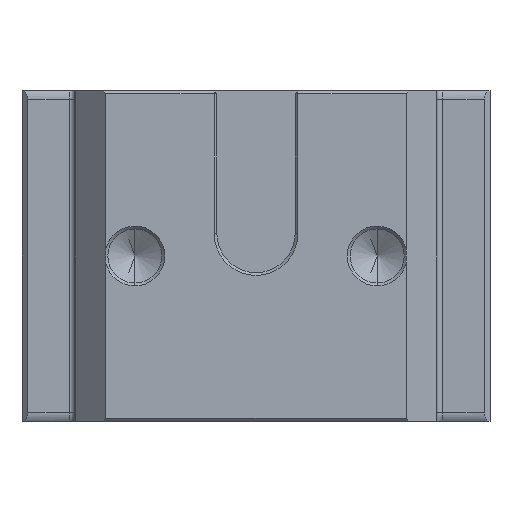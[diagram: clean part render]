
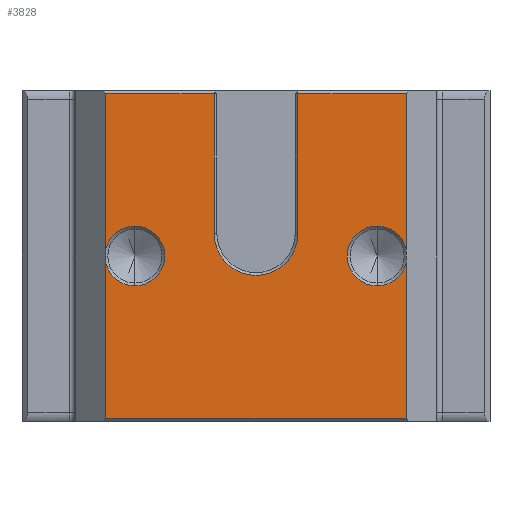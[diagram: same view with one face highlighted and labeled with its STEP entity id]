
A CAD part, front view. The second image highlights one B-rep face of the part: STEP entity #3828.
In plain terms, the highlighted planar face has unit normal (0, -1, 0).
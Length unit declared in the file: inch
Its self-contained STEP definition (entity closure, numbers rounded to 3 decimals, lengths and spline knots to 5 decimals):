
#2 = CARTESIAN_POINT ( 'NONE',  ( 0., 0.195, 0.08055 ) ) ;
#42 = CARTESIAN_POINT ( 'NONE',  ( 0.43307, 0.195, 0. ) ) ;
#49 = LINE ( 'NONE', #2636, #3301 ) ;
#53 = DIRECTION ( 'NONE',  ( 0., -1., 0. ) ) ;
#76 = EDGE_CURVE ( 'NONE', #3128, #4340, #2495, .T. ) ;
#121 = EDGE_CURVE ( 'NONE', #3798, #4583, #49, .T. ) ;
#190 = CARTESIAN_POINT ( 'NONE',  ( 0.43307, 0.195, 0. ) ) ;
#260 = CARTESIAN_POINT ( 'NONE',  ( 0.53665, 0.195, 0.02581 ) ) ;
#264 = DIRECTION ( 'NONE',  ( 0., 0., -1. ) ) ;
#275 = ORIENTED_EDGE ( 'NONE', *, *, #4650, .T. ) ;
#340 = EDGE_LOOP ( 'NONE', ( #3290, #2450, #4746, #2529, #2672, #1800, #275, #4670, #1283, #551, #570, #1722, #672, #1877, #1932, #1802 ) ) ;
#425 = DIRECTION ( 'NONE',  ( 0., 0., -1. ) ) ;
#451 = VERTEX_POINT ( 'NONE', #953 ) ;
#529 = EDGE_CURVE ( 'NONE', #860, #4014, #2243, .T. ) ;
#530 = CARTESIAN_POINT ( 'NONE',  ( -0.53665, 0.195, -0.58055 ) ) ;
#537 = DIRECTION ( 'NONE',  ( 0., -1., 0. ) ) ;
#551 = ORIENTED_EDGE ( 'NONE', *, *, #2058, .T. ) ;
#570 = ORIENTED_EDGE ( 'NONE', *, *, #941, .T. ) ;
#629 = VERTEX_POINT ( 'NONE', #2657 ) ;
#631 = DIRECTION ( 'NONE',  ( 0., -1., 0. ) ) ;
#666 = CARTESIAN_POINT ( 'NONE',  ( 0.53665, 0.195, -0.58055 ) ) ;
#671 = CARTESIAN_POINT ( 'NONE',  ( 0.53665, 0.195, -0.59055 ) ) ;
#672 = ORIENTED_EDGE ( 'NONE', *, *, #910, .F. ) ;
#700 = AXIS2_PLACEMENT_3D ( 'NONE', #671, #1003, #2521 ) ;
#747 = VERTEX_POINT ( 'NONE', #260 ) ;
#779 = CARTESIAN_POINT ( 'NONE',  ( 0.53665, 0.195, 0.58055 ) ) ;
#822 = VERTEX_POINT ( 'NONE', #3176 ) ;
#860 = VERTEX_POINT ( 'NONE', #1352 ) ;
#910 = EDGE_CURVE ( 'NONE', #2359, #822, #3316, .T. ) ;
#925 = VECTOR ( 'NONE', #4348, 39.37008 ) ;
#941 = EDGE_CURVE ( 'NONE', #1316, #1856, #1542, .T. ) ;
#953 = CARTESIAN_POINT ( 'NONE',  ( -0.43307, 0.195, -0.10675 ) ) ;
#1003 = DIRECTION ( 'NONE',  ( 0., 1., 0. ) ) ;
#1025 = EDGE_CURVE ( 'NONE', #3128, #629, #3052, .T. ) ;
#1190 = AXIS2_PLACEMENT_3D ( 'NONE', #1464, #3024, #425 ) ;
#1256 = DIRECTION ( 'NONE',  ( 0., 0., 1. ) ) ;
#1283 = ORIENTED_EDGE ( 'NONE', *, *, #3229, .T. ) ;
#1301 = CARTESIAN_POINT ( 'NONE',  ( -0.43307, 0.195, 0.10675 ) ) ;
#1310 = DIRECTION ( 'NONE',  ( 0., 0., -1. ) ) ;
#1316 = VERTEX_POINT ( 'NONE', #4523 ) ;
#1333 = CARTESIAN_POINT ( 'NONE',  ( 0.53665, 0.195, 0.58055 ) ) ;
#1352 = CARTESIAN_POINT ( 'NONE',  ( 0.43307, 0.195, 0.10675 ) ) ;
#1353 = VECTOR ( 'NONE', #4600, 39.37008 ) ;
#1388 = CARTESIAN_POINT ( 'NONE',  ( 0.53665, 0.195, -0.59055 ) ) ;
#1462 = VERTEX_POINT ( 'NONE', #3217 ) ;
#1464 = CARTESIAN_POINT ( 'NONE',  ( 0.43307, 0.195, 0. ) ) ;
#1542 = LINE ( 'NONE', #4504, #3817 ) ;
#1562 = EDGE_CURVE ( 'NONE', #4014, #3518, #2876, .T. ) ;
#1584 = LINE ( 'NONE', #4208, #3386 ) ;
#1638 = CARTESIAN_POINT ( 'NONE',  ( -0.53665, 0.195, -0.59055 ) ) ;
#1646 = EDGE_CURVE ( 'NONE', #629, #451, #4413, .T. ) ;
#1655 = CARTESIAN_POINT ( 'NONE',  ( -0.43307, 0.195, 0. ) ) ;
#1720 = VERTEX_POINT ( 'NONE', #1301 ) ;
#1722 = ORIENTED_EDGE ( 'NONE', *, *, #2321, .T. ) ;
#1732 = DIRECTION ( 'NONE',  ( 0., 0., 1. ) ) ;
#1776 = LINE ( 'NONE', #1388, #3575 ) ;
#1794 = CARTESIAN_POINT ( 'NONE',  ( -0.53665, 0.195, 0.02581 ) ) ;
#1799 = EDGE_CURVE ( 'NONE', #4340, #3518, #1776, .T. ) ;
#1800 = ORIENTED_EDGE ( 'NONE', *, *, #3781, .F. ) ;
#1802 = ORIENTED_EDGE ( 'NONE', *, *, #1646, .F. ) ;
#1823 = LINE ( 'NONE', #779, #4498 ) ;
#1856 = VERTEX_POINT ( 'NONE', #2447 ) ;
#1877 = ORIENTED_EDGE ( 'NONE', *, *, #4269, .F. ) ;
#1879 = AXIS2_PLACEMENT_3D ( 'NONE', #1902, #53, #3659 ) ;
#1902 = CARTESIAN_POINT ( 'NONE',  ( -0.43307, 0.195, 0. ) ) ;
#1932 = ORIENTED_EDGE ( 'NONE', *, *, #3410, .F. ) ;
#2019 = CARTESIAN_POINT ( 'NONE',  ( -0.43307, 0.195, 0. ) ) ;
#2028 = LINE ( 'NONE', #4712, #2760 ) ;
#2043 = AXIS2_PLACEMENT_3D ( 'NONE', #2, #4462, #3699 ) ;
#2058 = EDGE_CURVE ( 'NONE', #1462, #1316, #2880, .T. ) ;
#2235 = CARTESIAN_POINT ( 'NONE',  ( -0.53665, 0.195, -0.59055 ) ) ;
#2242 = CIRCLE ( 'NONE', #3294, 0.10675 ) ;
#2243 = CIRCLE ( 'NONE', #4559, 0.10675 ) ;
#2321 = EDGE_CURVE ( 'NONE', #1856, #822, #1823, .T. ) ;
#2359 = VERTEX_POINT ( 'NONE', #1794 ) ;
#2384 = CIRCLE ( 'NONE', #2994, 0.10675 ) ;
#2447 = CARTESIAN_POINT ( 'NONE',  ( -0.15, 0.195, 0.58055 ) ) ;
#2450 = ORIENTED_EDGE ( 'NONE', *, *, #76, .T. ) ;
#2495 = LINE ( 'NONE', #666, #925 ) ;
#2521 = DIRECTION ( 'NONE',  ( -1., 0., 0. ) ) ;
#2529 = ORIENTED_EDGE ( 'NONE', *, *, #1562, .F. ) ;
#2559 = DIRECTION ( 'NONE',  ( 0., -1., 0. ) ) ;
#2636 = CARTESIAN_POINT ( 'NONE',  ( 0.53665, 0.195, 0.58055 ) ) ;
#2657 = CARTESIAN_POINT ( 'NONE',  ( -0.53665, 0.195, -0.02581 ) ) ;
#2672 = ORIENTED_EDGE ( 'NONE', *, *, #529, .F. ) ;
#2760 = VECTOR ( 'NONE', #1256, 39.37008 ) ;
#2876 = CIRCLE ( 'NONE', #1190, 0.10675 ) ;
#2880 = CIRCLE ( 'NONE', #2043, 0.15 ) ;
#2917 = DIRECTION ( 'NONE',  ( 0., 0., -1. ) ) ;
#2994 = AXIS2_PLACEMENT_3D ( 'NONE', #2019, #537, #4638 ) ;
#3024 = DIRECTION ( 'NONE',  ( 0., -1., 0. ) ) ;
#3052 = LINE ( 'NONE', #1638, #1353 ) ;
#3128 = VERTEX_POINT ( 'NONE', #530 ) ;
#3176 = CARTESIAN_POINT ( 'NONE',  ( -0.53665, 0.195, 0.58055 ) ) ;
#3196 = FACE_OUTER_BOUND ( 'NONE', #340, .T. ) ;
#3217 = CARTESIAN_POINT ( 'NONE',  ( 0.15, 0.195, 0.08055 ) ) ;
#3229 = EDGE_CURVE ( 'NONE', #4583, #1462, #1584, .T. ) ;
#3250 = CARTESIAN_POINT ( 'NONE',  ( 0.53665, 0.195, -0.58055 ) ) ;
#3290 = ORIENTED_EDGE ( 'NONE', *, *, #1025, .F. ) ;
#3294 = AXIS2_PLACEMENT_3D ( 'NONE', #1655, #631, #1310 ) ;
#3301 = VECTOR ( 'NONE', #4465, 39.37008 ) ;
#3316 = LINE ( 'NONE', #2235, #4271 ) ;
#3386 = VECTOR ( 'NONE', #3774, 39.37008 ) ;
#3410 = EDGE_CURVE ( 'NONE', #451, #1720, #2384, .T. ) ;
#3445 = CARTESIAN_POINT ( 'NONE',  ( 0.15, 0.195, 0.58055 ) ) ;
#3518 = VERTEX_POINT ( 'NONE', #4385 ) ;
#3575 = VECTOR ( 'NONE', #1732, 39.37008 ) ;
#3659 = DIRECTION ( 'NONE',  ( 0., 0., -1. ) ) ;
#3699 = DIRECTION ( 'NONE',  ( -1., 0., 0. ) ) ;
#3735 = DIRECTION ( 'NONE',  ( 0., 0., 1. ) ) ;
#3774 = DIRECTION ( 'NONE',  ( 0., 0., -1. ) ) ;
#3781 = EDGE_CURVE ( 'NONE', #747, #860, #3858, .T. ) ;
#3798 = VERTEX_POINT ( 'NONE', #1333 ) ;
#3817 = VECTOR ( 'NONE', #3735, 39.37008 ) ;
#3828 = ADVANCED_FACE ( 'NONE', ( #3196 ), #4667, .F. ) ;
#3858 = CIRCLE ( 'NONE', #4241, 0.10675 ) ;
#3863 = DIRECTION ( 'NONE',  ( 0., -1., 0. ) ) ;
#4014 = VERTEX_POINT ( 'NONE', #4342 ) ;
#4208 = CARTESIAN_POINT ( 'NONE',  ( 0.15, 0.195, -0.59055 ) ) ;
#4241 = AXIS2_PLACEMENT_3D ( 'NONE', #190, #3863, #264 ) ;
#4269 = EDGE_CURVE ( 'NONE', #1720, #2359, #2242, .T. ) ;
#4271 = VECTOR ( 'NONE', #4401, 39.37008 ) ;
#4340 = VERTEX_POINT ( 'NONE', #3250 ) ;
#4342 = CARTESIAN_POINT ( 'NONE',  ( 0.43307, 0.195, -0.10675 ) ) ;
#4348 = DIRECTION ( 'NONE',  ( 1., 0., 0. ) ) ;
#4385 = CARTESIAN_POINT ( 'NONE',  ( 0.53665, 0.195, -0.02581 ) ) ;
#4401 = DIRECTION ( 'NONE',  ( 0., 0., 1. ) ) ;
#4413 = CIRCLE ( 'NONE', #1879, 0.10675 ) ;
#4435 = DIRECTION ( 'NONE',  ( -1., 0., 0. ) ) ;
#4462 = DIRECTION ( 'NONE',  ( 0., 1., 0. ) ) ;
#4465 = DIRECTION ( 'NONE',  ( -1., 0., 0. ) ) ;
#4498 = VECTOR ( 'NONE', #4435, 39.37008 ) ;
#4504 = CARTESIAN_POINT ( 'NONE',  ( -0.15, 0.195, -0.59055 ) ) ;
#4523 = CARTESIAN_POINT ( 'NONE',  ( -0.15, 0.195, 0.08055 ) ) ;
#4559 = AXIS2_PLACEMENT_3D ( 'NONE', #42, #2559, #2917 ) ;
#4583 = VERTEX_POINT ( 'NONE', #3445 ) ;
#4600 = DIRECTION ( 'NONE',  ( 0., 0., 1. ) ) ;
#4638 = DIRECTION ( 'NONE',  ( 0., 0., -1. ) ) ;
#4650 = EDGE_CURVE ( 'NONE', #747, #3798, #2028, .T. ) ;
#4667 = PLANE ( 'NONE',  #700 ) ;
#4670 = ORIENTED_EDGE ( 'NONE', *, *, #121, .T. ) ;
#4712 = CARTESIAN_POINT ( 'NONE',  ( 0.53665, 0.195, -0.59055 ) ) ;
#4746 = ORIENTED_EDGE ( 'NONE', *, *, #1799, .T. ) ;
